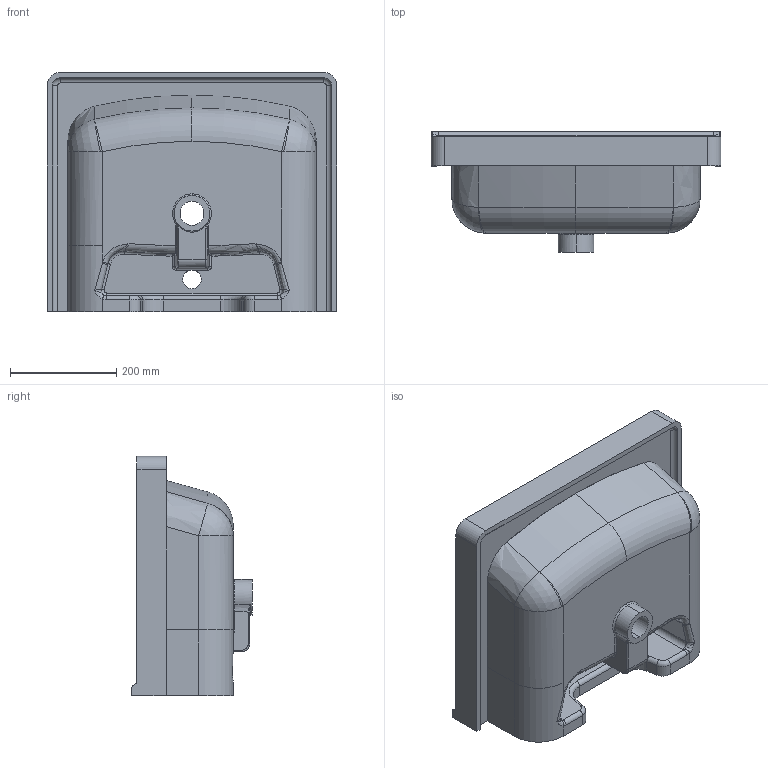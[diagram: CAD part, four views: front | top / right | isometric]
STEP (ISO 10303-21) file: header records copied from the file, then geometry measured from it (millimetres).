
FILE_DESCRIPTION (( 'STEP AP203' ), '1' );
FILE_NAME ('TF155.STEP', '2022-04-19T11:20:43', ( '' ), ( '' ), 'SwSTEP 2.0', 'SolidWorks 2021', '' );
FILE_SCHEMA (( 'CONFIG_CONTROL_DESIGN' ));
Length unit declared in the file: millimetre
Products named in the file (1): TF155
Bounding box: 545 x 227 x 450 mm (x, y, z)
Volume: 14373818.9 mm3; surface area: 1042770.2 mm2
Topology: 2 solids, 2 shells, 225 faces, 573 edges, 341 vertices
Faces by surface type: cylinder 80, plane 54, bspline 50, torus 31, cone 6, sphere 4
Entity records: 11068 total; most frequent: CARTESIAN_POINT 5885, ORIENTED_EDGE 1126, DIRECTION 1036, EDGE_CURVE 563, AXIS2_PLACEMENT_3D 411, VERTEX_POINT 341, CIRCLE 235, EDGE_LOOP 234
